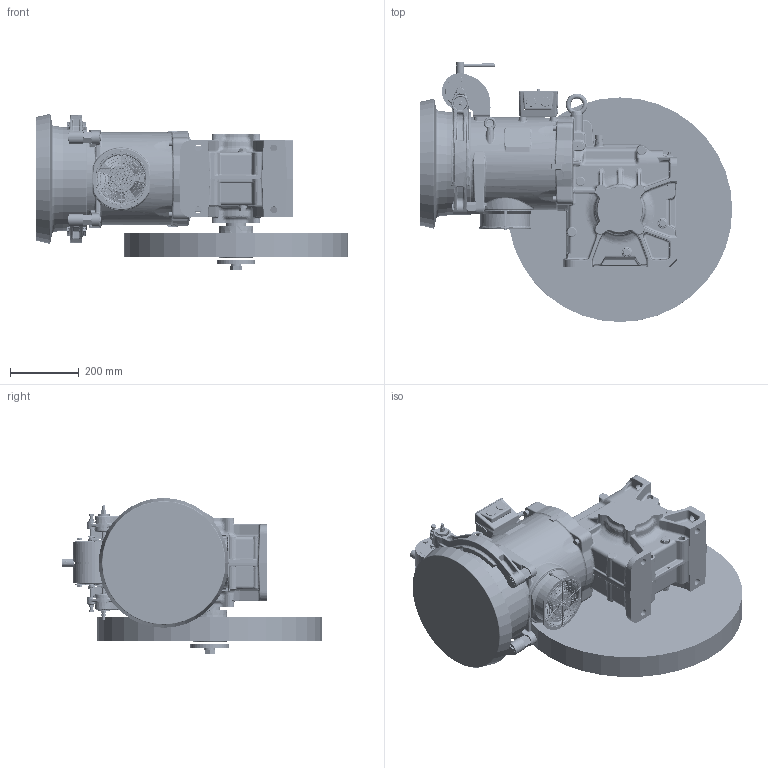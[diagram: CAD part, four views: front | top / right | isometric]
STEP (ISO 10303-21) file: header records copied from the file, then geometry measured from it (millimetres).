
FILE_DESCRIPTION((''),'2;1');
FILE_NAME('00383435_SW0001','2021-11-17T',('pietrobellog'),('Sicor spa'),'CREO PARAMETRIC BY PTC INC, 2017170','CREO PARAMETRIC BY PTC INC, 2017170','');
FILE_SCHEMA(('CONFIG_CONTROL_DESIGN'));
Products named in the file (1): 00383435_SW0001
Bounding box: 910 x 757 x 454.79 mm (x, y, z)
Surface area: 3336422.6 mm2 (no closed solid volume)
Topology: 0 solids, 275 shells, 4151 faces, 12830 edges, 8576 vertices
Faces by surface type: bspline 1345, cylinder 1023, plane 977, cone 393, torus 339, sphere 73, extrusion 1
Entity records: 259559 total; most frequent: CARTESIAN_POINT 160786, ORIENTED_EDGE 20936, DIRECTION 17575, EDGE_CURVE 12818, VERTEX_POINT 8576, AXIS2_PLACEMENT_3D 6990, B_SPLINE_CURVE_WITH_KNOTS 5040, CIRCLE 4185
